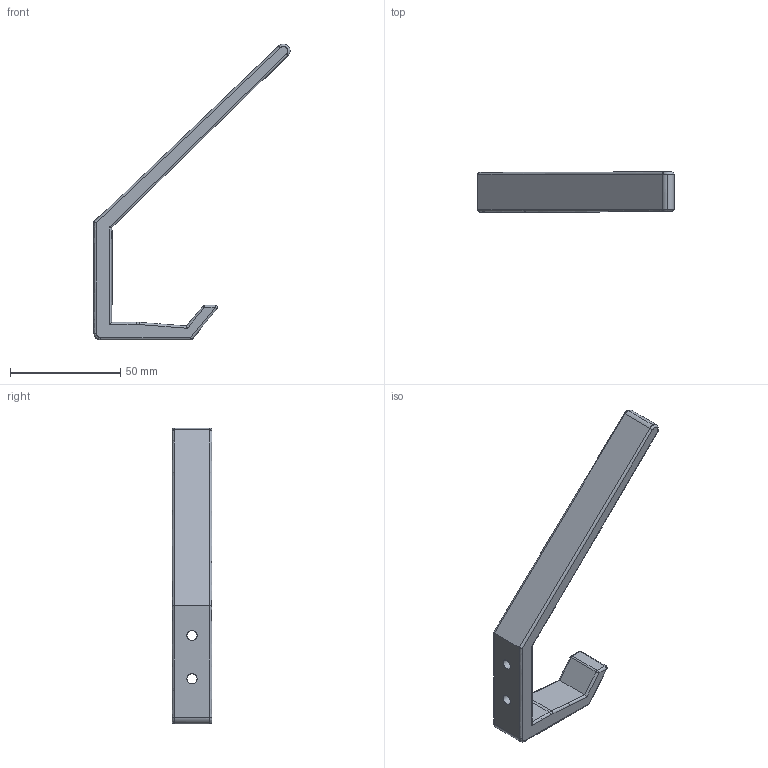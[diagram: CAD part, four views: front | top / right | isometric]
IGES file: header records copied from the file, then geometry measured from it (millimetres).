
Start section: C
Global section: file name: 088-134.igs; native system: By Siemens PLM Incorporated; preprocessor: XPlus GENERIC/IGES 16.0.42; author: Author; organization: Title; date: 20231210.153307; units: millimetre
Bounding box: 89 x 18 x 134.2 mm (x, y, z)
Surface area: 11024 mm2 (no closed solid volume)
Topology: 0 solids, 0 shells, 63 faces, 296 edges, 290 vertices
Faces by surface type: bspline 63
